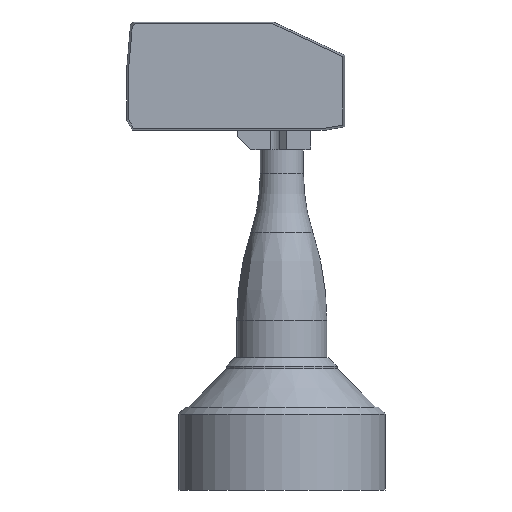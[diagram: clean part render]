
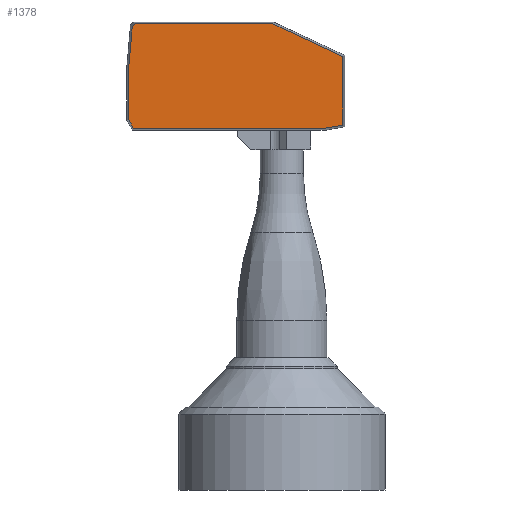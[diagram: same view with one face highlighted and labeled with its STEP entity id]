
A CAD part, front view. The second image highlights one B-rep face of the part: STEP entity #1378.
In plain terms, the highlighted planar face has unit normal (0, -1, 0).
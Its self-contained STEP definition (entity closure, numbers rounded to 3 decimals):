
#501=FACE_OUTER_BOUND('',#3122,.T.);
#1378=ADVANCED_FACE('',(#501),#2212,.T.);
#2212=PLANE('',#18631);
#3122=EDGE_LOOP('',(#5833,#5834,#5835,#5836,#5837,#5838,#5839,#5840,#5841));
#5833=ORIENTED_EDGE('',*,*,#11869,.F.);
#5834=ORIENTED_EDGE('',*,*,#11870,.T.);
#5835=ORIENTED_EDGE('',*,*,#11871,.F.);
#5836=ORIENTED_EDGE('',*,*,#11872,.F.);
#5837=ORIENTED_EDGE('',*,*,#11873,.F.);
#5838=ORIENTED_EDGE('',*,*,#11874,.F.);
#5839=ORIENTED_EDGE('',*,*,#11875,.F.);
#5840=ORIENTED_EDGE('',*,*,#11876,.F.);
#5841=ORIENTED_EDGE('',*,*,#11877,.F.);
#9837=VERTEX_POINT('',#25940);
#9838=VERTEX_POINT('',#25941);
#9839=VERTEX_POINT('',#25943);
#9840=VERTEX_POINT('',#25945);
#9841=VERTEX_POINT('',#25947);
#9842=VERTEX_POINT('',#25949);
#9843=VERTEX_POINT('',#25951);
#9844=VERTEX_POINT('',#25953);
#9845=VERTEX_POINT('',#25955);
#11869=EDGE_CURVE('',#9837,#9838,#14334,.T.);
#11870=EDGE_CURVE('',#9837,#9839,#14335,.T.);
#11871=EDGE_CURVE('',#9840,#9839,#14336,.T.);
#11872=EDGE_CURVE('',#9841,#9840,#14337,.T.);
#11873=EDGE_CURVE('',#9842,#9841,#14338,.T.);
#11874=EDGE_CURVE('',#9843,#9842,#14339,.T.);
#11875=EDGE_CURVE('',#9844,#9843,#14340,.T.);
#11876=EDGE_CURVE('',#9845,#9844,#14341,.T.);
#11877=EDGE_CURVE('',#9838,#9845,#14342,.T.);
#14334=LINE('',#25939,#16680);
#14335=LINE('',#25942,#16681);
#14336=LINE('',#25944,#16682);
#14337=LINE('',#25946,#16683);
#14338=LINE('',#25948,#16684);
#14339=LINE('',#25950,#16685);
#14340=LINE('',#25952,#16686);
#14341=LINE('',#25954,#16687);
#14342=LINE('',#25956,#16688);
#16680=VECTOR('',#21066,1.);
#16681=VECTOR('',#21067,1.);
#16682=VECTOR('',#21068,1.);
#16683=VECTOR('',#21069,1.);
#16684=VECTOR('',#21070,1.);
#16685=VECTOR('',#21071,1.);
#16686=VECTOR('',#21072,1.);
#16687=VECTOR('',#21073,1.);
#16688=VECTOR('',#21074,1.);
#18631=AXIS2_PLACEMENT_3D('',#25957,#21075,#21076);
#21066=DIRECTION('',(1.,0.,0.));
#21067=DIRECTION('',(-0.737,0.,-0.676));
#21068=DIRECTION('',(0.087,0.,0.996));
#21069=DIRECTION('',(0.,0.,1.));
#21070=DIRECTION('',(-0.5,0.,0.866));
#21071=DIRECTION('',(-1.,0.,0.));
#21072=DIRECTION('',(-0.985,0.,-0.174));
#21073=DIRECTION('',(0.,0.,-1.));
#21074=DIRECTION('',(0.906,0.,-0.423));
#21075=DIRECTION('',(0.,-1.,0.));
#21076=DIRECTION('',(1.,0.,0.));
#25939=CARTESIAN_POINT('',(-39.885,-55.,123.988));
#25940=CARTESIAN_POINT('',(-38.922,-55.,123.988));
#25941=CARTESIAN_POINT('',(-2.376,-55.,123.988));
#25942=CARTESIAN_POINT('',(-37.448,-55.,125.339));
#25943=CARTESIAN_POINT('',(-39.793,-55.,123.19));
#25944=CARTESIAN_POINT('',(-39.376,-55.,127.954));
#25945=CARTESIAN_POINT('',(-40.739,-55.,112.376));
#25946=CARTESIAN_POINT('',(-40.739,-55.,127.999));
#25947=CARTESIAN_POINT('',(-40.739,-55.,98.484));
#25948=CARTESIAN_POINT('',(-53.306,-55.,120.25));
#25949=CARTESIAN_POINT('',(-39.455,-55.,96.26));
#25950=CARTESIAN_POINT('',(-39.885,-55.,96.26));
#25951=CARTESIAN_POINT('',(11.705,-55.,96.26));
#25952=CARTESIAN_POINT('',(-32.902,-55.,88.394));
#25953=CARTESIAN_POINT('',(16.239,-55.,97.059));
#25954=CARTESIAN_POINT('',(16.239,-55.,127.999));
#25955=CARTESIAN_POINT('',(16.239,-55.,115.307));
#25956=CARTESIAN_POINT('',(-34.722,-55.,139.071));
#25957=CARTESIAN_POINT('',(-39.885,-55.,127.999));
